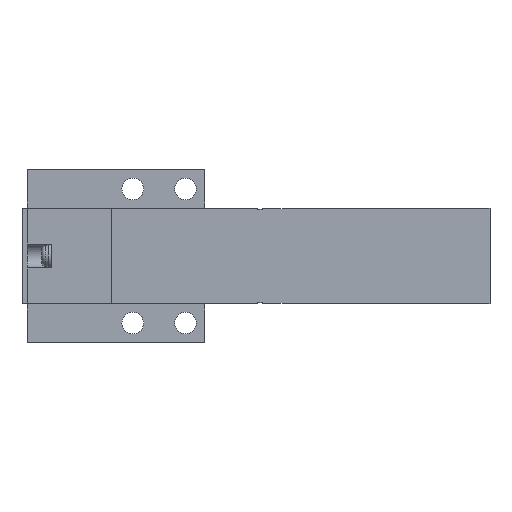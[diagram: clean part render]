
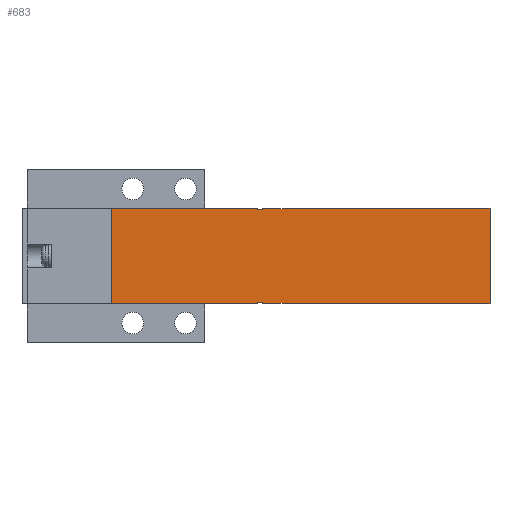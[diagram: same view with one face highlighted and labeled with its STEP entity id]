
A CAD part, front view. The second image highlights one B-rep face of the part: STEP entity #683.
In plain terms, the highlighted planar face has unit normal (0, -1, 0).
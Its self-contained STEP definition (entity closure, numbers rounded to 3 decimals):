
#683=ADVANCED_FACE('',(#1512),#1513,.F.);
#1512=FACE_OUTER_BOUND('',#2431,.T.);
#1513=PLANE('',#2432);
#2431=EDGE_LOOP('',(#5440,#5441,#5442,#5443,#5444,#5445,#5446,#5447,#5448,#5449,#5450,#5451,#5452,#5453,#5454,#5455,#5456,#5457,#5458,#5459,#5460,#5461,#5462,#5463));
#2432=AXIS2_PLACEMENT_3D('',#5464,#5465,#5466);
#5440=ORIENTED_EDGE('',*,*,#6830,.F.);
#5441=ORIENTED_EDGE('',*,*,#6832,.T.);
#5442=ORIENTED_EDGE('',*,*,#6762,.T.);
#5443=ORIENTED_EDGE('',*,*,#6807,.F.);
#5444=ORIENTED_EDGE('',*,*,#6833,.F.);
#5445=ORIENTED_EDGE('',*,*,#6587,.T.);
#5446=ORIENTED_EDGE('',*,*,#6752,.F.);
#5447=ORIENTED_EDGE('',*,*,#6666,.T.);
#5448=ORIENTED_EDGE('',*,*,#6669,.F.);
#5449=ORIENTED_EDGE('',*,*,#6720,.T.);
#5450=ORIENTED_EDGE('',*,*,#6643,.T.);
#5451=ORIENTED_EDGE('',*,*,#6603,.T.);
#5452=ORIENTED_EDGE('',*,*,#6747,.T.);
#5453=ORIENTED_EDGE('',*,*,#6834,.F.);
#5454=ORIENTED_EDGE('',*,*,#6835,.T.);
#5455=ORIENTED_EDGE('',*,*,#6810,.F.);
#5456=ORIENTED_EDGE('',*,*,#6827,.T.);
#5457=ORIENTED_EDGE('',*,*,#6836,.T.);
#5458=ORIENTED_EDGE('',*,*,#6803,.T.);
#5459=ORIENTED_EDGE('',*,*,#6774,.T.);
#5460=ORIENTED_EDGE('',*,*,#6837,.T.);
#5461=ORIENTED_EDGE('',*,*,#6838,.F.);
#5462=ORIENTED_EDGE('',*,*,#6633,.F.);
#5463=ORIENTED_EDGE('',*,*,#6734,.F.);
#5464=CARTESIAN_POINT('',(18.6,0.0,10.0));
#5465=DIRECTION('',(-0.0,1.0,0.0));
#5466=DIRECTION('',(1.0,0.0,0.0));
#6587=EDGE_CURVE('',#8117,#8115,#8118,.T.);
#6603=EDGE_CURVE('',#8146,#8144,#8147,.T.);
#6633=EDGE_CURVE('',#8199,#8202,#8203,.T.);
#6643=EDGE_CURVE('',#8221,#8146,#8222,.T.);
#6666=EDGE_CURVE('',#8258,#8256,#8259,.T.);
#6669=EDGE_CURVE('',#8262,#8256,#8264,.T.);
#6720=EDGE_CURVE('',#8262,#8221,#8350,.T.);
#6734=EDGE_CURVE('',#8372,#8199,#8374,.T.);
#6747=EDGE_CURVE('',#8144,#8391,#8393,.T.);
#6752=EDGE_CURVE('',#8258,#8115,#8399,.T.);
#6762=EDGE_CURVE('',#8411,#8415,#8417,.T.);
#6774=EDGE_CURVE('',#8437,#8435,#8438,.T.);
#6803=EDGE_CURVE('',#8473,#8437,#8474,.T.);
#6807=EDGE_CURVE('',#8479,#8415,#8480,.T.);
#6810=EDGE_CURVE('',#8483,#8485,#8486,.T.);
#6827=EDGE_CURVE('',#8483,#8507,#8509,.T.);
#6830=EDGE_CURVE('',#8511,#8372,#8513,.T.);
#6832=EDGE_CURVE('',#8511,#8411,#8515,.T.);
#6833=EDGE_CURVE('',#8117,#8479,#8516,.T.);
#6834=EDGE_CURVE('',#8517,#8391,#8518,.T.);
#6835=EDGE_CURVE('',#8517,#8485,#8519,.T.);
#6836=EDGE_CURVE('',#8507,#8473,#8520,.T.);
#6837=EDGE_CURVE('',#8435,#8521,#8522,.T.);
#6838=EDGE_CURVE('',#8202,#8521,#8523,.T.);
#8115=VERTEX_POINT('',#10557);
#8117=VERTEX_POINT('',#10560);
#8118=LINE('',#10561,#10562);
#8144=VERTEX_POINT('',#10628);
#8146=VERTEX_POINT('',#10631);
#8147=LINE('',#10632,#10633);
#8199=VERTEX_POINT('',#10708);
#8202=VERTEX_POINT('',#10712);
#8203=LINE('',#10713,#10714);
#8221=VERTEX_POINT('',#10739);
#8222=LINE('',#10740,#10741);
#8256=VERTEX_POINT('',#10815);
#8258=VERTEX_POINT('',#10818);
#8259=LINE('',#10819,#10820);
#8262=VERTEX_POINT('',#10824);
#8264=LINE('',#10827,#10828);
#8350=LINE('',#10959,#10960);
#8372=VERTEX_POINT('',#10994);
#8374=LINE('',#10997,#10998);
#8391=VERTEX_POINT('',#11024);
#8393=LINE('',#11027,#11028);
#8399=LINE('',#11038,#11039);
#8411=VERTEX_POINT('',#11056);
#8415=VERTEX_POINT('',#11062);
#8417=LINE('',#11065,#11066);
#8435=VERTEX_POINT('',#11092);
#8437=VERTEX_POINT('',#11095);
#8438=LINE('',#11096,#11097);
#8473=VERTEX_POINT('',#11158);
#8474=LINE('',#11159,#11160);
#8479=VERTEX_POINT('',#11167);
#8480=LINE('',#11168,#11169);
#8483=VERTEX_POINT('',#11173);
#8485=VERTEX_POINT('',#11176);
#8486=LINE('',#11177,#11178);
#8507=VERTEX_POINT('',#11213);
#8509=LINE('',#11216,#11217);
#8511=VERTEX_POINT('',#11220);
#8513=LINE('',#11223,#11224);
#8515=LINE('',#11227,#11228);
#8516=LINE('',#11229,#11230);
#8517=VERTEX_POINT('',#11231);
#8518=LINE('',#11232,#11233);
#8519=LINE('',#11234,#11235);
#8520=LINE('',#11236,#11237);
#8521=VERTEX_POINT('',#11238);
#8522=LINE('',#11239,#11240);
#8523=LINE('',#11241,#11242);
#10557=CARTESIAN_POINT('',(44.1,0.0,10.0));
#10560=CARTESIAN_POINT('',(44.1,0.0,9.9));
#10561=CARTESIAN_POINT('',(44.1,0.0,9.9));
#10562=VECTOR('',#12377,1.0);
#10628=CARTESIAN_POINT('',(35.1,0.0,-10.0));
#10631=CARTESIAN_POINT('',(35.1,0.0,-9.9));
#10632=CARTESIAN_POINT('',(35.1,0.0,-9.9));
#10633=VECTOR('',#12392,1.0);
#10708=CARTESIAN_POINT('',(55.1,0.0,10.0));
#10712=CARTESIAN_POINT('',(97.6,0.0,10.0));
#10713=CARTESIAN_POINT('',(18.6,0.0,10.0));
#10714=VECTOR('',#12432,1.0);
#10739=CARTESIAN_POINT('',(18.6,0.0,-9.9));
#10740=CARTESIAN_POINT('',(18.6,0.0,-9.9));
#10741=VECTOR('',#12446,1.0);
#10815=CARTESIAN_POINT('',(35.1,0.0,9.9));
#10818=CARTESIAN_POINT('',(35.1,0.0,10.0));
#10819=CARTESIAN_POINT('',(35.1,0.0,10.1));
#10820=VECTOR('',#12474,1.0);
#10824=CARTESIAN_POINT('',(18.6,0.0,9.9));
#10827=CARTESIAN_POINT('',(18.6,0.0,9.9));
#10828=VECTOR('',#12477,1.0);
#10959=CARTESIAN_POINT('',(18.6,0.0,10.0));
#10960=VECTOR('',#12538,1.0);
#10994=CARTESIAN_POINT('',(55.1,0.0,9.9));
#10997=CARTESIAN_POINT('',(55.1,0.0,9.9));
#10998=VECTOR('',#12552,1.0);
#11024=CARTESIAN_POINT('',(44.1,0.0,-10.0));
#11027=CARTESIAN_POINT('',(18.6,0.0,-10.0));
#11028=VECTOR('',#12569,1.0);
#11038=CARTESIAN_POINT('',(18.6,0.0,10.0));
#11039=VECTOR('',#12574,1.0);
#11056=CARTESIAN_POINT('',(50.1,0.0,9.8));
#11062=CARTESIAN_POINT('',(49.1,0.0,9.8));
#11065=CARTESIAN_POINT('',(18.6,0.0,9.8));
#11066=VECTOR('',#12586,1.0);
#11092=CARTESIAN_POINT('',(55.1,0.0,-10.0));
#11095=CARTESIAN_POINT('',(55.1,0.0,-9.9));
#11096=CARTESIAN_POINT('',(55.1,0.0,-9.9));
#11097=VECTOR('',#12602,1.0);
#11158=CARTESIAN_POINT('',(50.1,0.0,-9.9));
#11159=CARTESIAN_POINT('',(44.1,0.0,-9.9));
#11160=VECTOR('',#12632,1.0);
#11167=CARTESIAN_POINT('',(49.1,0.0,9.9));
#11168=CARTESIAN_POINT('',(49.1,0.0,10.0));
#11169=VECTOR('',#12638,1.0);
#11173=CARTESIAN_POINT('',(49.1,0.0,-9.8));
#11176=CARTESIAN_POINT('',(49.1,0.0,-9.9));
#11177=CARTESIAN_POINT('',(49.1,0.0,10.0));
#11178=VECTOR('',#12641,1.0);
#11213=CARTESIAN_POINT('',(50.1,0.0,-9.8));
#11216=CARTESIAN_POINT('',(18.6,0.0,-9.8));
#11217=VECTOR('',#12660,1.0);
#11220=CARTESIAN_POINT('',(50.1,0.0,9.9));
#11223=CARTESIAN_POINT('',(44.1,0.0,9.9));
#11224=VECTOR('',#12663,1.0);
#11227=CARTESIAN_POINT('',(50.1,0.0,10.0));
#11228=VECTOR('',#12665,1.0);
#11229=CARTESIAN_POINT('',(44.1,0.0,9.9));
#11230=VECTOR('',#12666,1.0);
#11231=CARTESIAN_POINT('',(44.1,0.0,-9.9));
#11232=CARTESIAN_POINT('',(44.1,0.0,-9.9));
#11233=VECTOR('',#12667,1.0);
#11234=CARTESIAN_POINT('',(44.1,0.0,-9.9));
#11235=VECTOR('',#12668,1.0);
#11236=CARTESIAN_POINT('',(50.1,0.0,10.0));
#11237=VECTOR('',#12669,1.0);
#11238=CARTESIAN_POINT('',(97.6,0.0,-10.0));
#11239=CARTESIAN_POINT('',(18.6,0.0,-10.0));
#11240=VECTOR('',#12670,1.0);
#11241=CARTESIAN_POINT('',(97.6,0.0,10.0));
#11242=VECTOR('',#12671,1.0);
#12377=DIRECTION('',(0.0,0.0,1.0));
#12392=DIRECTION('',(0.0,0.0,-1.0));
#12432=DIRECTION('',(1.0,0.0,0.0));
#12446=DIRECTION('',(1.0,0.0,0.0));
#12474=DIRECTION('',(0.0,0.0,-1.0));
#12477=DIRECTION('',(1.0,0.0,0.0));
#12538=DIRECTION('',(0.0,0.0,-1.0));
#12552=DIRECTION('',(0.0,0.0,1.0));
#12569=DIRECTION('',(1.0,0.0,0.0));
#12574=DIRECTION('',(1.0,0.0,0.0));
#12586=DIRECTION('',(-1.0,0.0,0.0));
#12602=DIRECTION('',(0.0,0.0,-1.0));
#12632=DIRECTION('',(1.0,0.0,0.0));
#12638=DIRECTION('',(0.0,0.0,-1.0));
#12641=DIRECTION('',(0.0,0.0,-1.0));
#12660=DIRECTION('',(1.0,0.0,0.0));
#12663=DIRECTION('',(1.0,0.0,0.0));
#12665=DIRECTION('',(0.0,0.0,-1.0));
#12666=DIRECTION('',(1.0,0.0,0.0));
#12667=DIRECTION('',(0.0,0.0,-1.0));
#12668=DIRECTION('',(1.0,0.0,0.0));
#12669=DIRECTION('',(0.0,0.0,-1.0));
#12670=DIRECTION('',(1.0,0.0,0.0));
#12671=DIRECTION('',(0.0,0.0,-1.0));
